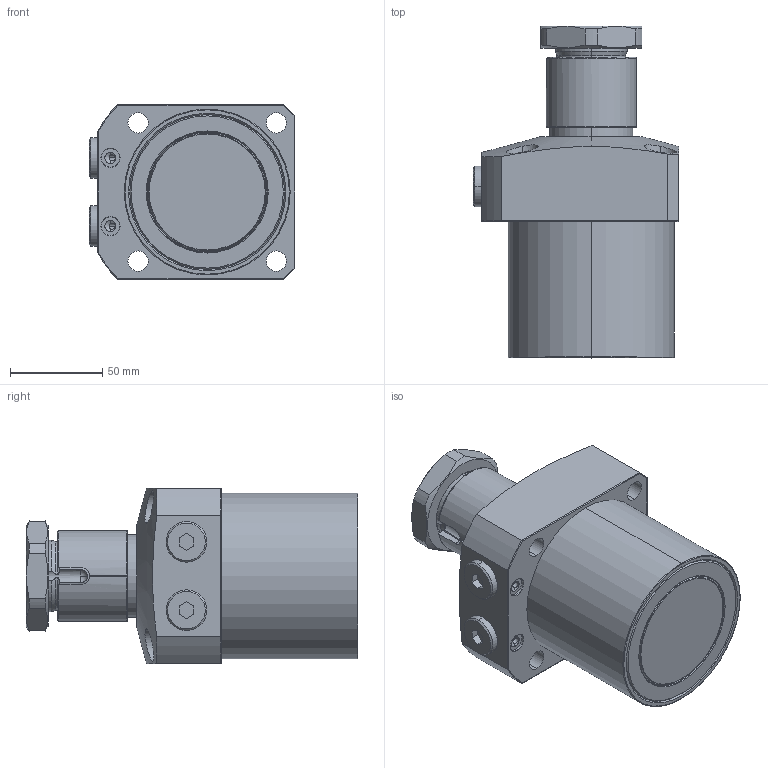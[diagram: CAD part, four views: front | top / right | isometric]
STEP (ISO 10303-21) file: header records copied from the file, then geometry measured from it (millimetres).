
FILE_DESCRIPTION (( 'STEP AP203' ), '1' );
FILE_NAME ('20760-CR.step', '2019-06-24T03:06:35', ( '微软用户' ), ( '微软中国' ), 'SwSTEP 2.0', 'SolidWorks 2014', '' );
FILE_SCHEMA (( 'CONFIG_CONTROL_DESIGN' ));
Length unit declared in the file: millimetre
Products named in the file (7): 20760-02^20760-CR; 20760-03^20760-CR; 20760-01^20760-CR; 20760-04^20760-CR; 20760-05^20760-CR; 20760-C-P-4^20760-CR; 20760-CR
Assembly tree (7 placements, depth 2):
  20760-CR
    20760-01^20760-CR
    20760-02^20760-CR
    20760-03^20760-CR
    20760-04^20760-CR
    20760-05^20760-CR
    20760-C-P-4^20760-CR  x2
Bounding box: 111.5 x 180 x 95 mm (x, y, z)
Volume: 1020787.4 mm3; surface area: 108721.5 mm2
Topology: 7 solids, 7 shells, 223 faces, 521 edges, 330 vertices
Faces by surface type: plane 79, cylinder 75, cone 49, torus 18, sphere 2
Entity records: 7729 total; most frequent: CARTESIAN_POINT 2116, DIRECTION 1049, ORIENTED_EDGE 986, EDGE_CURVE 493, AXIS2_PLACEMENT_3D 428, VERTEX_POINT 312, EDGE_LOOP 241, FACE_OUTER_BOUND 210
